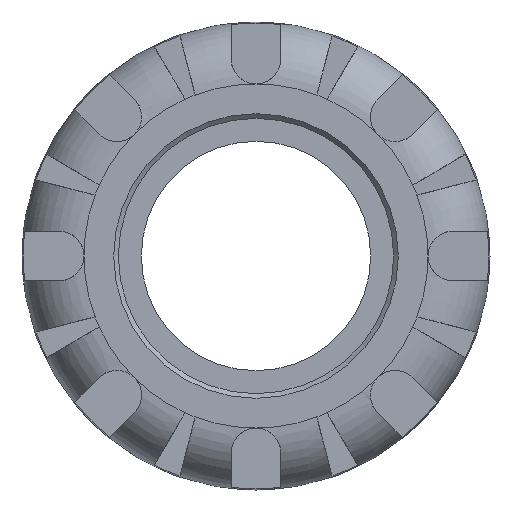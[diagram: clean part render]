
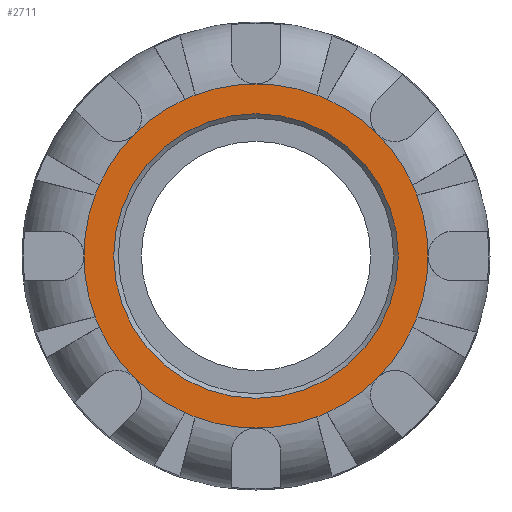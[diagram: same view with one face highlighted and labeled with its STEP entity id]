
A CAD part, left-side view. The second image highlights one B-rep face of the part: STEP entity #2711.
In plain terms, the highlighted planar face has unit normal (-1, 0, 0).
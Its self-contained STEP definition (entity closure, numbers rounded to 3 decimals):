
#19=FACE_BOUND('',#619,.T.);
#34=PLANE('',#2910);
#454=FACE_OUTER_BOUND('',#618,.T.);
#618=EDGE_LOOP('',(#1823,#1824,#1825,#1826,#1827,#1828,#1829,#1830,#1831,
#1832,#1833,#1834,#1835,#1836,#1837,#1838,#1839,#1840,#1841,#1842,#1843,
#1844,#1845,#1846));
#619=EDGE_LOOP('',(#1847));
#785=CIRCLE('',#2907,25.85);
#788=CIRCLE('',#2911,31.25);
#789=CIRCLE('',#2912,31.25);
#790=CIRCLE('',#2913,31.25);
#791=CIRCLE('',#2914,31.25);
#792=CIRCLE('',#2915,31.25);
#793=CIRCLE('',#2916,31.25);
#794=CIRCLE('',#2917,31.25);
#795=CIRCLE('',#2918,31.25);
#796=CIRCLE('',#2919,31.25);
#797=CIRCLE('',#2920,31.25);
#798=CIRCLE('',#2921,31.25);
#799=CIRCLE('',#2922,31.25);
#800=CIRCLE('',#2923,31.25);
#801=CIRCLE('',#2924,31.25);
#802=CIRCLE('',#2925,31.25);
#803=CIRCLE('',#2926,31.25);
#804=CIRCLE('',#2927,31.25);
#805=CIRCLE('',#2928,31.25);
#806=CIRCLE('',#2929,31.25);
#807=CIRCLE('',#2930,31.25);
#808=CIRCLE('',#2931,31.25);
#809=CIRCLE('',#2932,31.25);
#810=CIRCLE('',#2933,31.25);
#811=CIRCLE('',#2934,31.25);
#1077=VERTEX_POINT('',#4330);
#1080=VERTEX_POINT('',#4338);
#1081=VERTEX_POINT('',#4339);
#1082=VERTEX_POINT('',#4341);
#1083=VERTEX_POINT('',#4343);
#1084=VERTEX_POINT('',#4345);
#1085=VERTEX_POINT('',#4347);
#1086=VERTEX_POINT('',#4349);
#1087=VERTEX_POINT('',#4351);
#1088=VERTEX_POINT('',#4353);
#1089=VERTEX_POINT('',#4355);
#1090=VERTEX_POINT('',#4357);
#1091=VERTEX_POINT('',#4359);
#1092=VERTEX_POINT('',#4361);
#1093=VERTEX_POINT('',#4363);
#1094=VERTEX_POINT('',#4365);
#1095=VERTEX_POINT('',#4367);
#1096=VERTEX_POINT('',#4369);
#1097=VERTEX_POINT('',#4371);
#1098=VERTEX_POINT('',#4373);
#1099=VERTEX_POINT('',#4375);
#1100=VERTEX_POINT('',#4377);
#1101=VERTEX_POINT('',#4379);
#1102=VERTEX_POINT('',#4381);
#1103=VERTEX_POINT('',#4383);
#1363=EDGE_CURVE('',#1077,#1077,#785,.T.);
#1367=EDGE_CURVE('',#1080,#1081,#788,.T.);
#1368=EDGE_CURVE('',#1082,#1080,#789,.T.);
#1369=EDGE_CURVE('',#1083,#1082,#790,.T.);
#1370=EDGE_CURVE('',#1084,#1083,#791,.T.);
#1371=EDGE_CURVE('',#1085,#1084,#792,.T.);
#1372=EDGE_CURVE('',#1086,#1085,#793,.T.);
#1373=EDGE_CURVE('',#1087,#1086,#794,.T.);
#1374=EDGE_CURVE('',#1088,#1087,#795,.T.);
#1375=EDGE_CURVE('',#1089,#1088,#796,.T.);
#1376=EDGE_CURVE('',#1090,#1089,#797,.T.);
#1377=EDGE_CURVE('',#1091,#1090,#798,.T.);
#1378=EDGE_CURVE('',#1092,#1091,#799,.T.);
#1379=EDGE_CURVE('',#1093,#1092,#800,.T.);
#1380=EDGE_CURVE('',#1094,#1093,#801,.T.);
#1381=EDGE_CURVE('',#1095,#1094,#802,.T.);
#1382=EDGE_CURVE('',#1096,#1095,#803,.T.);
#1383=EDGE_CURVE('',#1097,#1096,#804,.T.);
#1384=EDGE_CURVE('',#1098,#1097,#805,.T.);
#1385=EDGE_CURVE('',#1099,#1098,#806,.T.);
#1386=EDGE_CURVE('',#1100,#1099,#807,.T.);
#1387=EDGE_CURVE('',#1101,#1100,#808,.T.);
#1388=EDGE_CURVE('',#1102,#1101,#809,.T.);
#1389=EDGE_CURVE('',#1103,#1102,#810,.T.);
#1390=EDGE_CURVE('',#1081,#1103,#811,.T.);
#1823=ORIENTED_EDGE('',*,*,#1367,.F.);
#1824=ORIENTED_EDGE('',*,*,#1368,.F.);
#1825=ORIENTED_EDGE('',*,*,#1369,.F.);
#1826=ORIENTED_EDGE('',*,*,#1370,.F.);
#1827=ORIENTED_EDGE('',*,*,#1371,.F.);
#1828=ORIENTED_EDGE('',*,*,#1372,.F.);
#1829=ORIENTED_EDGE('',*,*,#1373,.F.);
#1830=ORIENTED_EDGE('',*,*,#1374,.F.);
#1831=ORIENTED_EDGE('',*,*,#1375,.F.);
#1832=ORIENTED_EDGE('',*,*,#1376,.F.);
#1833=ORIENTED_EDGE('',*,*,#1377,.F.);
#1834=ORIENTED_EDGE('',*,*,#1378,.F.);
#1835=ORIENTED_EDGE('',*,*,#1379,.F.);
#1836=ORIENTED_EDGE('',*,*,#1380,.F.);
#1837=ORIENTED_EDGE('',*,*,#1381,.F.);
#1838=ORIENTED_EDGE('',*,*,#1382,.F.);
#1839=ORIENTED_EDGE('',*,*,#1383,.F.);
#1840=ORIENTED_EDGE('',*,*,#1384,.F.);
#1841=ORIENTED_EDGE('',*,*,#1385,.F.);
#1842=ORIENTED_EDGE('',*,*,#1386,.F.);
#1843=ORIENTED_EDGE('',*,*,#1387,.F.);
#1844=ORIENTED_EDGE('',*,*,#1388,.F.);
#1845=ORIENTED_EDGE('',*,*,#1389,.F.);
#1846=ORIENTED_EDGE('',*,*,#1390,.F.);
#1847=ORIENTED_EDGE('',*,*,#1363,.F.);
#2711=ADVANCED_FACE('',(#454,#19),#34,.T.);
#2907=AXIS2_PLACEMENT_3D('',#4331,#3279,#3280);
#2910=AXIS2_PLACEMENT_3D('',#4337,#3286,#3287);
#2911=AXIS2_PLACEMENT_3D('',#4340,#3288,#3289);
#2912=AXIS2_PLACEMENT_3D('',#4342,#3290,#3291);
#2913=AXIS2_PLACEMENT_3D('',#4344,#3292,#3293);
#2914=AXIS2_PLACEMENT_3D('',#4346,#3294,#3295);
#2915=AXIS2_PLACEMENT_3D('',#4348,#3296,#3297);
#2916=AXIS2_PLACEMENT_3D('',#4350,#3298,#3299);
#2917=AXIS2_PLACEMENT_3D('',#4352,#3300,#3301);
#2918=AXIS2_PLACEMENT_3D('',#4354,#3302,#3303);
#2919=AXIS2_PLACEMENT_3D('',#4356,#3304,#3305);
#2920=AXIS2_PLACEMENT_3D('',#4358,#3306,#3307);
#2921=AXIS2_PLACEMENT_3D('',#4360,#3308,#3309);
#2922=AXIS2_PLACEMENT_3D('',#4362,#3310,#3311);
#2923=AXIS2_PLACEMENT_3D('',#4364,#3312,#3313);
#2924=AXIS2_PLACEMENT_3D('',#4366,#3314,#3315);
#2925=AXIS2_PLACEMENT_3D('',#4368,#3316,#3317);
#2926=AXIS2_PLACEMENT_3D('',#4370,#3318,#3319);
#2927=AXIS2_PLACEMENT_3D('',#4372,#3320,#3321);
#2928=AXIS2_PLACEMENT_3D('',#4374,#3322,#3323);
#2929=AXIS2_PLACEMENT_3D('',#4376,#3324,#3325);
#2930=AXIS2_PLACEMENT_3D('',#4378,#3326,#3327);
#2931=AXIS2_PLACEMENT_3D('',#4380,#3328,#3329);
#2932=AXIS2_PLACEMENT_3D('',#4382,#3330,#3331);
#2933=AXIS2_PLACEMENT_3D('',#4384,#3332,#3333);
#2934=AXIS2_PLACEMENT_3D('',#4385,#3334,#3335);
#3279=DIRECTION('center_axis',(-1.,0.,0.));
#3280=DIRECTION('ref_axis',(0.,-1.,0.));
#3286=DIRECTION('center_axis',(-1.,0.,0.));
#3287=DIRECTION('ref_axis',(0.,0.,1.));
#3288=DIRECTION('center_axis',(1.,0.,0.));
#3289=DIRECTION('ref_axis',(0.,0.,-1.));
#3290=DIRECTION('center_axis',(1.,0.,0.));
#3291=DIRECTION('ref_axis',(0.,0.,-1.));
#3292=DIRECTION('center_axis',(1.,0.,0.));
#3293=DIRECTION('ref_axis',(0.,0.,-1.));
#3294=DIRECTION('center_axis',(1.,0.,0.));
#3295=DIRECTION('ref_axis',(0.,0.,-1.));
#3296=DIRECTION('center_axis',(1.,0.,0.));
#3297=DIRECTION('ref_axis',(0.,0.,-1.));
#3298=DIRECTION('center_axis',(1.,0.,0.));
#3299=DIRECTION('ref_axis',(0.,0.,-1.));
#3300=DIRECTION('center_axis',(1.,0.,0.));
#3301=DIRECTION('ref_axis',(0.,0.,-1.));
#3302=DIRECTION('center_axis',(1.,0.,0.));
#3303=DIRECTION('ref_axis',(0.,0.,-1.));
#3304=DIRECTION('center_axis',(1.,0.,0.));
#3305=DIRECTION('ref_axis',(0.,0.,-1.));
#3306=DIRECTION('center_axis',(1.,0.,0.));
#3307=DIRECTION('ref_axis',(0.,0.,-1.));
#3308=DIRECTION('center_axis',(1.,0.,0.));
#3309=DIRECTION('ref_axis',(0.,0.,-1.));
#3310=DIRECTION('center_axis',(1.,0.,0.));
#3311=DIRECTION('ref_axis',(0.,0.,-1.));
#3312=DIRECTION('center_axis',(1.,0.,0.));
#3313=DIRECTION('ref_axis',(0.,0.,-1.));
#3314=DIRECTION('center_axis',(1.,0.,0.));
#3315=DIRECTION('ref_axis',(0.,0.,-1.));
#3316=DIRECTION('center_axis',(1.,0.,0.));
#3317=DIRECTION('ref_axis',(0.,0.,-1.));
#3318=DIRECTION('center_axis',(1.,0.,0.));
#3319=DIRECTION('ref_axis',(0.,0.,-1.));
#3320=DIRECTION('center_axis',(1.,0.,0.));
#3321=DIRECTION('ref_axis',(0.,0.,-1.));
#3322=DIRECTION('center_axis',(1.,0.,0.));
#3323=DIRECTION('ref_axis',(0.,0.,-1.));
#3324=DIRECTION('center_axis',(1.,0.,0.));
#3325=DIRECTION('ref_axis',(0.,0.,-1.));
#3326=DIRECTION('center_axis',(1.,0.,0.));
#3327=DIRECTION('ref_axis',(0.,0.,-1.));
#3328=DIRECTION('center_axis',(1.,0.,0.));
#3329=DIRECTION('ref_axis',(0.,0.,-1.));
#3330=DIRECTION('center_axis',(1.,0.,0.));
#3331=DIRECTION('ref_axis',(0.,0.,-1.));
#3332=DIRECTION('center_axis',(1.,0.,0.));
#3333=DIRECTION('ref_axis',(0.,0.,-1.));
#3334=DIRECTION('center_axis',(1.,0.,0.));
#3335=DIRECTION('ref_axis',(0.,0.,-1.));
#4330=CARTESIAN_POINT('',(-83.5,25.85,0.));
#4331=CARTESIAN_POINT('Origin',(-83.5,0.,0.));
#4337=CARTESIAN_POINT('Origin',(-83.5,31.25,0.));
#4338=CARTESIAN_POINT('',(-83.5,31.25,0.));
#4339=CARTESIAN_POINT('',(-83.5,29.239,11.029));
#4340=CARTESIAN_POINT('Origin',(-83.5,0.,0.));
#4341=CARTESIAN_POINT('',(-83.5,29.239,-11.029));
#4342=CARTESIAN_POINT('Origin',(-83.5,0.,0.));
#4343=CARTESIAN_POINT('',(-83.5,28.474,-12.877));
#4344=CARTESIAN_POINT('Origin',(-83.5,0.,0.));
#4345=CARTESIAN_POINT('',(-83.5,22.097,-22.097));
#4346=CARTESIAN_POINT('Origin',(-83.5,0.,0.));
#4347=CARTESIAN_POINT('',(-83.5,12.877,-28.474));
#4348=CARTESIAN_POINT('Origin',(-83.5,0.,0.));
#4349=CARTESIAN_POINT('',(-83.5,11.029,-29.239));
#4350=CARTESIAN_POINT('Origin',(-83.5,0.,0.));
#4351=CARTESIAN_POINT('',(-83.5,0.,-31.25));
#4352=CARTESIAN_POINT('Origin',(-83.5,0.,0.));
#4353=CARTESIAN_POINT('',(-83.5,-11.029,-29.239));
#4354=CARTESIAN_POINT('Origin',(-83.5,0.,0.));
#4355=CARTESIAN_POINT('',(-83.5,-12.877,-28.474));
#4356=CARTESIAN_POINT('Origin',(-83.5,0.,0.));
#4357=CARTESIAN_POINT('',(-83.5,-22.097,-22.097));
#4358=CARTESIAN_POINT('Origin',(-83.5,0.,0.));
#4359=CARTESIAN_POINT('',(-83.5,-28.474,-12.877));
#4360=CARTESIAN_POINT('Origin',(-83.5,0.,0.));
#4361=CARTESIAN_POINT('',(-83.5,-29.239,-11.029));
#4362=CARTESIAN_POINT('Origin',(-83.5,0.,0.));
#4363=CARTESIAN_POINT('',(-83.5,-31.25,0.));
#4364=CARTESIAN_POINT('Origin',(-83.5,0.,0.));
#4365=CARTESIAN_POINT('',(-83.5,-29.239,11.029));
#4366=CARTESIAN_POINT('Origin',(-83.5,0.,0.));
#4367=CARTESIAN_POINT('',(-83.5,-28.474,12.877));
#4368=CARTESIAN_POINT('Origin',(-83.5,0.,0.));
#4369=CARTESIAN_POINT('',(-83.5,-22.097,22.097));
#4370=CARTESIAN_POINT('Origin',(-83.5,0.,0.));
#4371=CARTESIAN_POINT('',(-83.5,-12.877,28.474));
#4372=CARTESIAN_POINT('Origin',(-83.5,0.,0.));
#4373=CARTESIAN_POINT('',(-83.5,-11.029,29.239));
#4374=CARTESIAN_POINT('Origin',(-83.5,0.,0.));
#4375=CARTESIAN_POINT('',(-83.5,0.,31.25));
#4376=CARTESIAN_POINT('Origin',(-83.5,0.,0.));
#4377=CARTESIAN_POINT('',(-83.5,11.029,29.239));
#4378=CARTESIAN_POINT('Origin',(-83.5,0.,0.));
#4379=CARTESIAN_POINT('',(-83.5,12.877,28.474));
#4380=CARTESIAN_POINT('Origin',(-83.5,0.,0.));
#4381=CARTESIAN_POINT('',(-83.5,22.097,22.097));
#4382=CARTESIAN_POINT('Origin',(-83.5,0.,0.));
#4383=CARTESIAN_POINT('',(-83.5,28.474,12.877));
#4384=CARTESIAN_POINT('Origin',(-83.5,0.,0.));
#4385=CARTESIAN_POINT('Origin',(-83.5,0.,0.));
